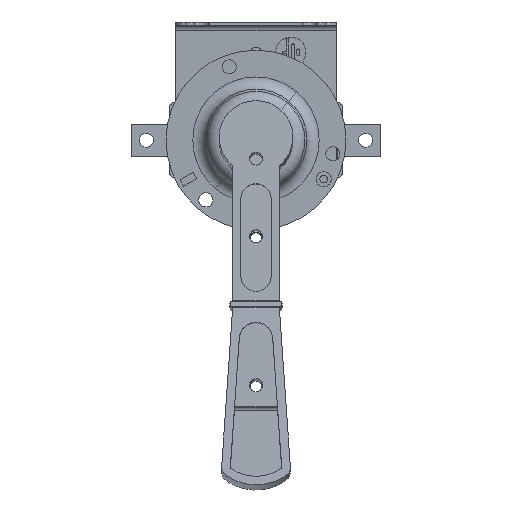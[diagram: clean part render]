
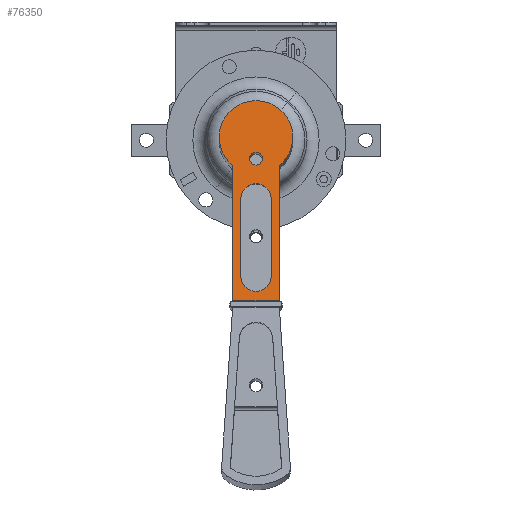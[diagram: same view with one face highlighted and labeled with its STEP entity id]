
A CAD part, left-side view. The second image highlights one B-rep face of the part: STEP entity #76350.
In plain terms, the highlighted planar face has unit normal (-0.992, 0, 0.128) as drawn and (0, -1, 0) by its records, which use the part's own axes.
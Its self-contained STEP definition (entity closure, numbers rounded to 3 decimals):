
#685 = VERTEX_POINT ( 'NONE', #110346 ) ;
#1808 = VECTOR ( 'NONE', #89903, 1000. ) ;
#2315 = DIRECTION ( 'NONE',  ( 0., 0., -1. ) ) ;
#2989 = AXIS2_PLACEMENT_3D ( 'NONE', #3856, #92110, #2315 ) ;
#3856 = CARTESIAN_POINT ( 'NONE',  ( -9.534, -4.79, 0. ) ) ;
#4675 = VECTOR ( 'NONE', #20326, 1000. ) ;
#9144 = ORIENTED_EDGE ( 'NONE', *, *, #104590, .T. ) ;
#9765 = CARTESIAN_POINT ( 'NONE',  ( -35.334, -4.79, 17. ) ) ;
#10167 = CARTESIAN_POINT ( 'NONE',  ( -35.334, -4.79, -10.75 ) ) ;
#10935 = DIRECTION ( 'NONE',  ( 0., 0., 1. ) ) ;
#10943 = DIRECTION ( 'NONE',  ( 0., -1., 0. ) ) ;
#12260 = CARTESIAN_POINT ( 'NONE',  ( 56.666, -4.79, 10.75 ) ) ;
#13344 = CIRCLE ( 'NONE', #64529, 17. ) ;
#14740 = LINE ( 'NONE', #68277, #69213 ) ;
#18687 = AXIS2_PLACEMENT_3D ( 'NONE', #9765, #89825, #10935 ) ;
#19615 = CARTESIAN_POINT ( 'NONE',  ( 45.166, -4.79, 7. ) ) ;
#19896 = EDGE_LOOP ( 'NONE', ( #55549, #92204, #96263, #99748 ) ) ;
#20201 = CIRCLE ( 'NONE', #66174, 3. ) ;
#20326 = DIRECTION ( 'NONE',  ( 1., 0., 0. ) ) ;
#21265 = EDGE_CURVE ( 'NONE', #76101, #77294, #72150, .T. ) ;
#22526 = FACE_BOUND ( 'NONE', #19896, .T. ) ;
#23169 = CIRCLE ( 'NONE', #77000, 17. ) ;
#24159 = DIRECTION ( 'NONE',  ( -1., 0., 0. ) ) ;
#24307 = DIRECTION ( 'NONE',  ( 0., -1., 0. ) ) ;
#24740 = EDGE_CURVE ( 'NONE', #44076, #91473, #20201, .T. ) ;
#27724 = CIRCLE ( 'NONE', #72225, 17. ) ;
#28401 = CARTESIAN_POINT ( 'NONE',  ( -9.534, -4.79, 3. ) ) ;
#28437 = LINE ( 'NONE', #10167, #4675 ) ;
#30437 = DIRECTION ( 'NONE',  ( 0., 0., -1. ) ) ;
#33324 = CARTESIAN_POINT ( 'NONE',  ( 56.666, -4.79, 17. ) ) ;
#36276 = EDGE_CURVE ( 'NONE', #57769, #685, #81463, .T. ) ;
#39088 = LINE ( 'NONE', #33324, #50299 ) ;
#40008 = ORIENTED_EDGE ( 'NONE', *, *, #53559, .F. ) ;
#40750 = VERTEX_POINT ( 'NONE', #84694 ) ;
#42145 = DIRECTION ( 'NONE',  ( 0., 0., -1. ) ) ;
#42219 = CARTESIAN_POINT ( 'NONE',  ( 9.166, -4.79, 0. ) ) ;
#44076 = VERTEX_POINT ( 'NONE', #57961 ) ;
#46260 = FACE_BOUND ( 'NONE', #81627, .T. ) ;
#50299 = VECTOR ( 'NONE', #68445, 1000. ) ;
#50735 = CARTESIAN_POINT ( 'NONE',  ( 9.166, -4.79, -7. ) ) ;
#51165 = CIRCLE ( 'NONE', #2989, 3. ) ;
#51196 = VECTOR ( 'NONE', #96821, 1000. ) ;
#51548 = CARTESIAN_POINT ( 'NONE',  ( -9.534, -4.79, 0. ) ) ;
#52390 = EDGE_LOOP ( 'NONE', ( #9144, #86589, #101959, #99240, #40008, #82241 ) ) ;
#52537 = VERTEX_POINT ( 'NONE', #53685 ) ;
#53559 = EDGE_CURVE ( 'NONE', #57769, #40750, #39088, .T. ) ;
#53685 = CARTESIAN_POINT ( 'NONE',  ( -19.465, -4.79, -17. ) ) ;
#55549 = ORIENTED_EDGE ( 'NONE', *, *, #21265, .F. ) ;
#57769 = VERTEX_POINT ( 'NONE', #12260 ) ;
#57961 = CARTESIAN_POINT ( 'NONE',  ( -9.534, -4.79, -3. ) ) ;
#58967 = DIRECTION ( 'NONE',  ( 0., -1., 0. ) ) ;
#62403 = CARTESIAN_POINT ( 'NONE',  ( -6.295, -4.79, -10.75 ) ) ;
#62485 = CIRCLE ( 'NONE', #93787, 7. ) ;
#64529 = AXIS2_PLACEMENT_3D ( 'NONE', #65932, #10943, #30437 ) ;
#65881 = CARTESIAN_POINT ( 'NONE',  ( -19.465, -4.79, 0. ) ) ;
#65932 = CARTESIAN_POINT ( 'NONE',  ( -19.465, -4.79, 0. ) ) ;
#66174 = AXIS2_PLACEMENT_3D ( 'NONE', #51548, #58967, #42145 ) ;
#67342 = VERTEX_POINT ( 'NONE', #90305 ) ;
#67746 = EDGE_CURVE ( 'NONE', #75994, #52537, #27724, .T. ) ;
#67935 = VERTEX_POINT ( 'NONE', #62403 ) ;
#68277 = CARTESIAN_POINT ( 'NONE',  ( 45.166, -4.79, 7. ) ) ;
#68445 = DIRECTION ( 'NONE',  ( 0., 0., -1. ) ) ;
#69213 = VECTOR ( 'NONE', #24159, 1000. ) ;
#70354 = DIRECTION ( 'NONE',  ( 0., 0., -1. ) ) ;
#72150 = LINE ( 'NONE', #50735, #51196 ) ;
#72225 = AXIS2_PLACEMENT_3D ( 'NONE', #114021, #105023, #95638 ) ;
#73456 = CARTESIAN_POINT ( 'NONE',  ( 45.166, -4.79, 0. ) ) ;
#75994 = VERTEX_POINT ( 'NONE', #95740 ) ;
#76101 = VERTEX_POINT ( 'NONE', #103965 ) ;
#76350 = ADVANCED_FACE ( 'NONE', ( #46260, #76966, #22526 ), #109348, .F. ) ;
#76966 = FACE_OUTER_BOUND ( 'NONE', #52390, .T. ) ;
#77000 = AXIS2_PLACEMENT_3D ( 'NONE', #65881, #83839, #101507 ) ;
#77294 = VERTEX_POINT ( 'NONE', #114374 ) ;
#81463 = LINE ( 'NONE', #100457, #1808 ) ;
#81627 = EDGE_LOOP ( 'NONE', ( #112887, #94523 ) ) ;
#82241 = ORIENTED_EDGE ( 'NONE', *, *, #36276, .T. ) ;
#82438 = DIRECTION ( 'NONE',  ( 0., 0., -1. ) ) ;
#82503 = EDGE_CURVE ( 'NONE', #77294, #89509, #62485, .T. ) ;
#83839 = DIRECTION ( 'NONE',  ( 0., -1., 0. ) ) ;
#84552 = EDGE_CURVE ( 'NONE', #89509, #67342, #14740, .T. ) ;
#84694 = CARTESIAN_POINT ( 'NONE',  ( 56.666, -4.79, -10.75 ) ) ;
#86108 = EDGE_CURVE ( 'NONE', #67935, #40750, #28437, .T. ) ;
#86589 = ORIENTED_EDGE ( 'NONE', *, *, #67746, .T. ) ;
#89509 = VERTEX_POINT ( 'NONE', #19615 ) ;
#89825 = DIRECTION ( 'NONE',  ( 0., 1., 0. ) ) ;
#89903 = DIRECTION ( 'NONE',  ( -1., 0., 0. ) ) ;
#90305 = CARTESIAN_POINT ( 'NONE',  ( 9.166, -4.79, 7. ) ) ;
#91473 = VERTEX_POINT ( 'NONE', #28401 ) ;
#91838 = DIRECTION ( 'NONE',  ( 0., -1., 0. ) ) ;
#92110 = DIRECTION ( 'NONE',  ( 0., -1., 0. ) ) ;
#92204 = ORIENTED_EDGE ( 'NONE', *, *, #93302, .F. ) ;
#93302 = EDGE_CURVE ( 'NONE', #67342, #76101, #94331, .T. ) ;
#93787 = AXIS2_PLACEMENT_3D ( 'NONE', #73456, #91838, #82438 ) ;
#94331 = CIRCLE ( 'NONE', #96536, 7. ) ;
#94523 = ORIENTED_EDGE ( 'NONE', *, *, #104779, .F. ) ;
#95638 = DIRECTION ( 'NONE',  ( 0., 0., -1. ) ) ;
#95740 = CARTESIAN_POINT ( 'NONE',  ( -19.465, -4.79, 17. ) ) ;
#96263 = ORIENTED_EDGE ( 'NONE', *, *, #84552, .F. ) ;
#96536 = AXIS2_PLACEMENT_3D ( 'NONE', #42219, #24307, #70354 ) ;
#96821 = DIRECTION ( 'NONE',  ( 1., 0., 0. ) ) ;
#99240 = ORIENTED_EDGE ( 'NONE', *, *, #86108, .T. ) ;
#99748 = ORIENTED_EDGE ( 'NONE', *, *, #82503, .F. ) ;
#100457 = CARTESIAN_POINT ( 'NONE',  ( -35.334, -4.79, 10.75 ) ) ;
#101507 = DIRECTION ( 'NONE',  ( 0., 0., -1. ) ) ;
#101959 = ORIENTED_EDGE ( 'NONE', *, *, #110569, .T. ) ;
#103965 = CARTESIAN_POINT ( 'NONE',  ( 9.166, -4.79, -7. ) ) ;
#104590 = EDGE_CURVE ( 'NONE', #685, #75994, #23169, .T. ) ;
#104779 = EDGE_CURVE ( 'NONE', #91473, #44076, #51165, .T. ) ;
#105023 = DIRECTION ( 'NONE',  ( 0., -1., 0. ) ) ;
#109348 = PLANE ( 'NONE',  #18687 ) ;
#110346 = CARTESIAN_POINT ( 'NONE',  ( -6.295, -4.79, 10.75 ) ) ;
#110569 = EDGE_CURVE ( 'NONE', #52537, #67935, #13344, .T. ) ;
#112887 = ORIENTED_EDGE ( 'NONE', *, *, #24740, .F. ) ;
#114021 = CARTESIAN_POINT ( 'NONE',  ( -19.465, -4.79, 0. ) ) ;
#114374 = CARTESIAN_POINT ( 'NONE',  ( 45.166, -4.79, -7. ) ) ;
